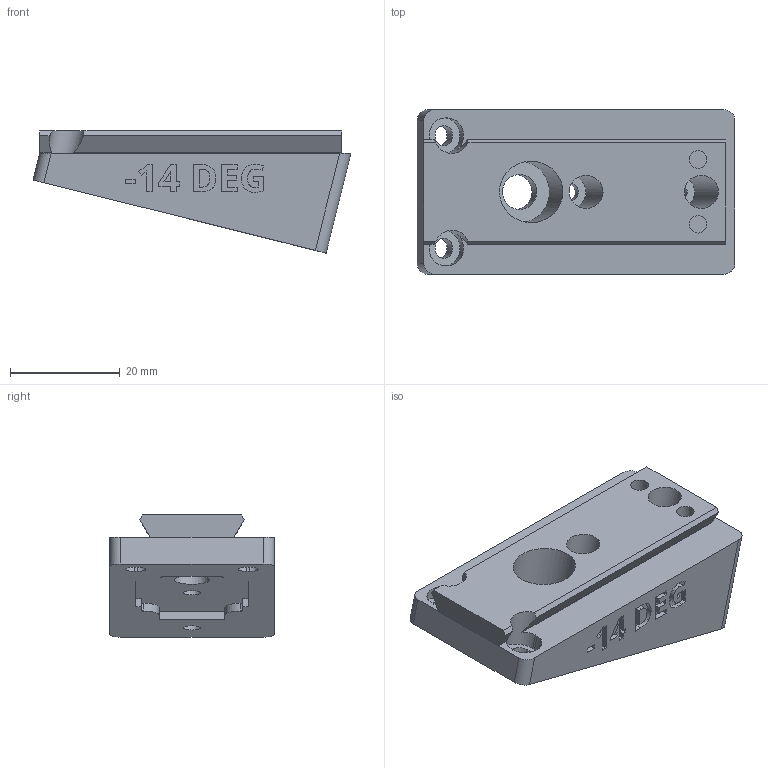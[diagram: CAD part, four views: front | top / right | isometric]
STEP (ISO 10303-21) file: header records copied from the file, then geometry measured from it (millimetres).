
FILE_DESCRIPTION(/* description */ ('STEP AP242 Edition 2','CAx-IF Rec.Pracs.---Representation and Presentation of Product Manufacturing Information (PMI)---4.0---2014-10-13','CAx-IF Rec.Pracs.---3D Tessellated Geometry---0.4---2014-09-14','2;1','CAx-IF Rec.Pracs.---User Defined Attributes---1.5---2016-08-15'),/* implementation_level */ '2;1');
FILE_NAME(/* name */ 'Camera Wedges - CAMERA MOUNTING WEDGE, NEG, -14 DEG',/* time_stamp */ '2026-07-08T20:34:41Z',/* author */ (''),/* organization */ (''),/* preprocessor_version */ 'ST-DEVELOPER v20',/* originating_system */ 'ONSHAPE BY PTC INC, 1.217',/* authorisation */ ' ');
FILE_SCHEMA (('AP242_MANAGED_MODEL_BASED_3D_ENGINEERING_MIM_LF { 1 0 10303 442 3 1 4 }'));
Length unit declared in the file: metre
Products named in the file (1): CAMERA MOUNTING WEDGE, NEG, -14 DEG
Bounding box: 57.89 x 30 x 22.24 mm (x, y, z)
Volume: 20248.8 mm3; surface area: 7603.6 mm2
Topology: 1 solids, 1 shells, 243 faces, 655 edges, 436 vertices
Faces by surface type: plane 171, cylinder 42, bspline 30
Full cylindrical faces by diameter (mm): 3.2 x4, 6 x2, 6.4 x1, 11.2 x1
Entity records: 7671 total; most frequent: CARTESIAN_POINT 1657, ORIENTED_EDGE 1294, DIRECTION 1111, EDGE_CURVE 647, LINE 491, VECTOR 491, VERTEX_POINT 436, AXIS2_PLACEMENT_3D 310
